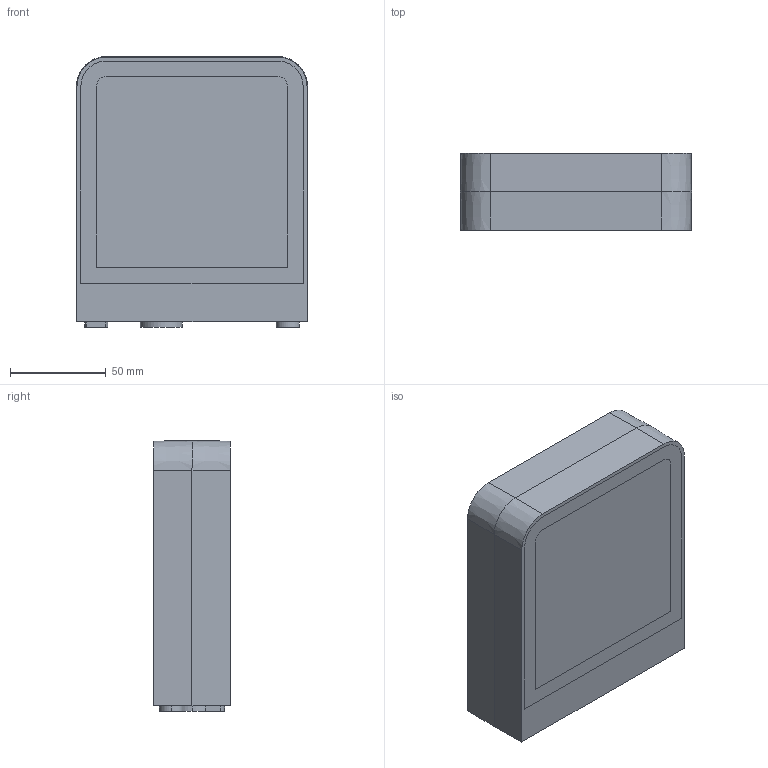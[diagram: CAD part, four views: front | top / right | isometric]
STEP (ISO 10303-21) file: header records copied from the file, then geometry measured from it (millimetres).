
FILE_DESCRIPTION(/* description */ (''),/* implementation_level */ '2;1');
FILE_NAME(/* name */ 'C:\Users\Franco Sartori E\Documents\FARO\DUPLICADO\Modelos\01_Digitalizados\PRIORIZACION 2D\1_AXEL\03_Publicación\71272.stp',/* time_stamp */ '2020-12-16T09:49:27+01:00',/* author */ ('Franco Sartori E'),/* organization */ (''),/* preprocessor_version */ 'ST-DEVELOPER v18.1',/* originating_system */ 'AutoCAD Mechanical',/* authorisation */ '');
FILE_SCHEMA (('AUTOMOTIVE_DESIGN { 1 0 10303 214 3 1 1 }'));
Length unit declared in the file: millimetre
Products named in the file (2): Product; 71272_71273 - lamp-450626-Export
Assembly tree (1 placements, depth 2):
  Product
    71272_71273 - lamp-450626-Export
Bounding box: 120.7 x 40 x 141.35 mm (x, y, z)
Volume: 381367.7 mm3; surface area: 128119.9 mm2
Topology: 7 solids, 7 shells, 139 faces, 337 edges, 222 vertices
Faces by surface type: plane 103, cylinder 24, cone 12
Entity records: 4105 total; most frequent: CARTESIAN_POINT 701, DIRECTION 689, ORIENTED_EDGE 674, EDGE_CURVE 337, LINE 269, VECTOR 269, VERTEX_POINT 222, AXIS2_PLACEMENT_3D 210
